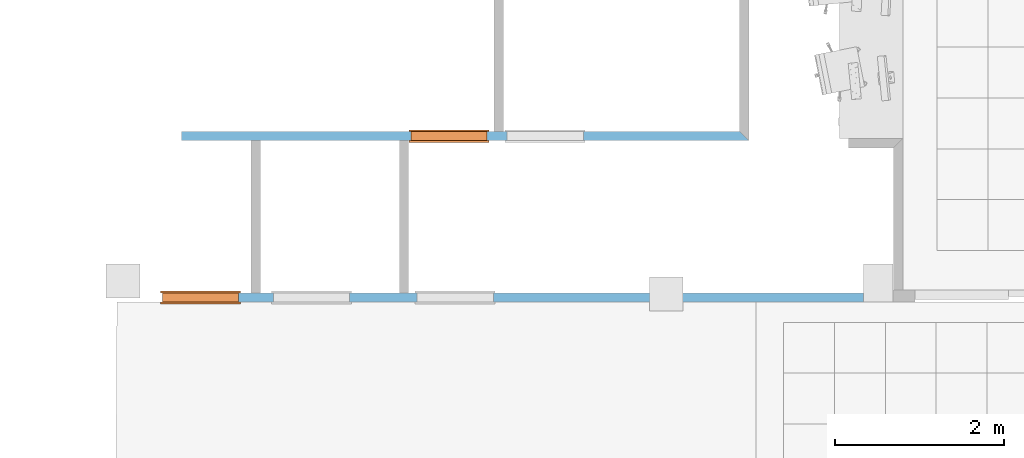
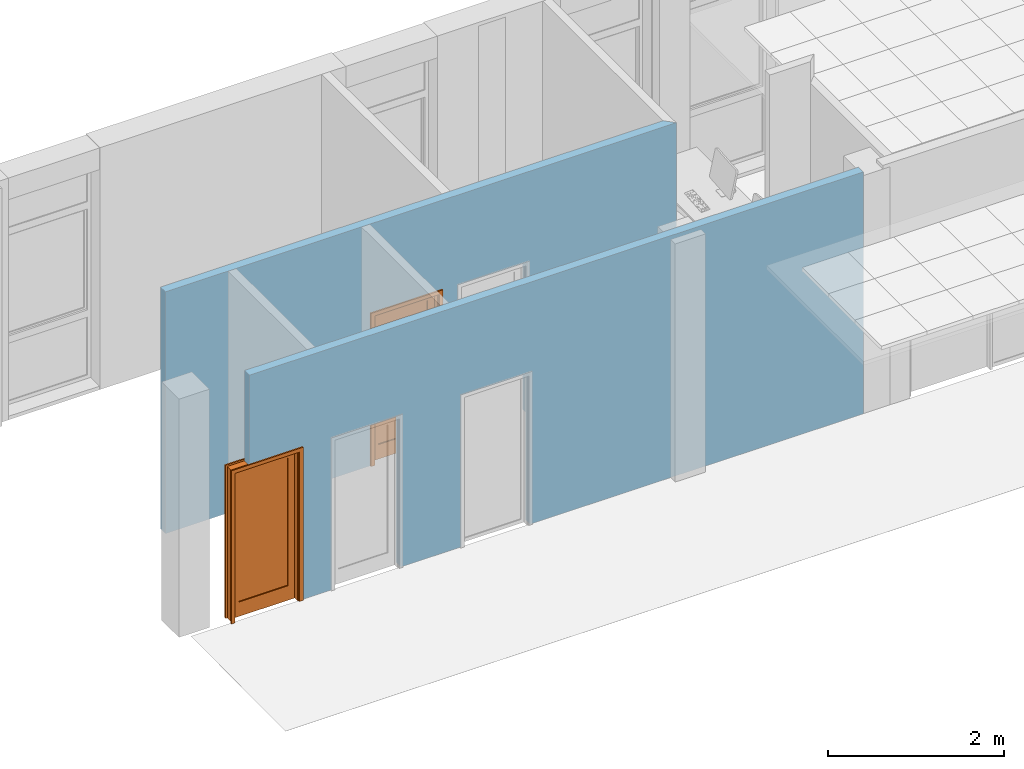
# One storey, part 49 of 68: 2 proxies, 5 openings, plus 2 elements that do not belong to this part.
"""IFC2X3 building model written with IfcOpenShell, lengths in millimetres."""

from ifc_helpers import new_model, entity, si_unit, converted_unit, derived_unit, money_unit, direction, frame, origin_with_axes, origin_2d_with_axis, place, context, subcontext, project, spatial, polyline, rectangle, outline, extrude, open_shell, faceted_brep, surface_model, material, layer, layer_set, layer_usage, type_object, element, fill, save


model = new_model("IFC2X3")

# Units and contexts
model_context = context("Model", 3, precision=0.01, world=origin_with_axes(), true_north=direction((0.0, 1.0)))
body_context = subcontext(model_context, "Body", "Model", "MODEL_VIEW")
ifc_project = project(units=[si_unit("LENGTHUNIT", "METRE", prefix="MILLI"), si_unit("AREAUNIT", "SQUARE_METRE"), si_unit("VOLUMEUNIT", "CUBIC_METRE"), converted_unit("PLANEANGLEUNIT", "DEGREE", entity("IfcPlaneAngleMeasure", 0.0174532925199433), si_unit("PLANEANGLEUNIT", "RADIAN"), dimensions=[0, 0, 0, 0, 0, 0, 0]), money_unit("USD"), converted_unit("TIMEUNIT", "Year", entity("IfcTimeMeasure", 31557600.0), si_unit("TIMEUNIT", "SECOND"), dimensions=[0, 0, 1, 0, 0, 0, 0]), si_unit("MASSUNIT", "GRAM", prefix="KILO"), si_unit("THERMODYNAMICTEMPERATUREUNIT", "DEGREE_CELSIUS"), si_unit("LUMINOUSINTENSITYUNIT", "LUMEN"), si_unit("ENERGYUNIT", "JOULE", prefix="MEGA"), derived_unit("THERMALCONDUCTANCEUNIT", [(si_unit("POWERUNIT", "WATT"), 1), (si_unit("LENGTHUNIT", "METRE"), -1), (si_unit("THERMODYNAMICTEMPERATUREUNIT", "KELVIN"), -1)]), derived_unit("SPECIFICHEATCAPACITYUNIT", [(si_unit("ENERGYUNIT", "JOULE"), 1), (si_unit("MASSUNIT", "GRAM", prefix="KILO"), -1), (si_unit("THERMODYNAMICTEMPERATUREUNIT", "KELVIN"), -1)]), derived_unit("MASSDENSITYUNIT", [(si_unit("MASSUNIT", "GRAM", prefix="KILO"), 1), (si_unit("VOLUMEUNIT", "CUBIC_METRE"), -1)])], contexts=[model_context])

# Site, building, storey
site_placement = place(None, origin_with_axes())
site = spatial("IfcSite", under=ifc_project, at=site_placement, Name="Sitio", CompositionType="ELEMENT")
building_placement = place(site_placement, origin_with_axes())
building = spatial("IfcBuilding", under=site, at=building_placement, Name="Construcción", CompositionType="ELEMENT")
storey_placement = place(building_placement, origin_with_axes())
storey = spatial("IfcBuildingStorey", under=building, at=storey_placement, Name="PLANTA 1ª", CompositionType="ELEMENT", Elevation=0.0)

# Wall, openings, proxy
ifc_material_1 = material(Name="ARQ_AM246_Arrebossat_De_Guix")
ifc_layer_1 = layer(ifc_material_1, 10.0, ventilated="UNKNOWN")
ifc_material_2 = material(Name="ARQ_CE217_Gero")
ifc_layer_2 = layer(ifc_material_2, 90.0, ventilated="UNKNOWN")
ifc_layer_3 = layer(ifc_material_1, 10.0, ventilated="UNKNOWN")
ifc_layer_set = layer_set([ifc_layer_1, ifc_layer_2, ifc_layer_3], Name="CR Enva Totxana")
ifc_layer_usage_1 = layer_usage(ifc_layer_set, "AXIS2", "POSITIVE", 0.0)
wall_type = type_object("IfcWallType", Name="CR Enva Totxana 110", PredefinedType="NOTDEFINED")
wall_1_placement = place(storey_placement, frame((-27275.14962012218, -15178.97582371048, 0.0), z_axis=(0.0, 0.0, 1.0), x_axis=(1.0, 0.0, 0.0)))
wall_1 = element("IfcWallStandardCase", 1, at=wall_1_placement, inside=storey, type_object=wall_type, material=ifc_layer_usage_1, Name="MS-201", context=body_context, shape_type="SweptSolid", body=[
    extrude(outline(polyline([(0.0, 0.0), (6693.718264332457, 0.0), (6583.718264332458, 109.9999999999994), (0.0, 109.9999999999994), (0.0, 0.0)])), origin_with_axes(), (0.0, 0.0, 1.0), 3350.0),
])
opening_1_placement = place(wall_1_placement, frame((3155.540615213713, 0.0, 0.0), z_axis=(0.0, 0.0, 1.0), x_axis=(1.0, 0.0, 0.0)))
opening_1 = element("IfcOpeningElement", 2, at=opening_1_placement, cuts=wall_1, Name="PF-07D", context=body_context, shape_type="SweptSolid", body=[
    extrude(rectangle(XDim=899.9999999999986, YDim=2100.0, at=origin_2d_with_axis()), frame((0.0, -109.9999999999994, 1050.0), z_axis=(0.0, 1.0, 0.0), x_axis=(1.0, 0.0, 0.0)), (0.0, 0.0, 1.0), 329.9999999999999),
    extrude(rectangle(XDim=944.0000000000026, YDim=2122.0, at=origin_2d_with_axis()), frame((0.0, 0.0, 1061.0), z_axis=(0.0, 1.0, 0.0), x_axis=(1.0, 0.0, 0.0)), (0.0, 0.0, -1.0), 110.0),
    extrude(rectangle(XDim=944.0000000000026, YDim=2122.0, at=origin_2d_with_axis()), frame((0.0, 109.9999999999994, 1061.0), z_axis=(0.0, -1.0, 0.0), x_axis=(1.0, 0.0, 0.0)), (0.0, 0.0, -1.0), 110.0),
])
opening_2_placement = place(wall_1_placement, frame((4291.29279168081, 0.0, 0.0), z_axis=(0.0, 0.0, 1.0), x_axis=(1.0, 0.0, 0.0)))
element("IfcOpeningElement", 3, at=opening_2_placement, cuts=wall_1, Name="PF-08D", context=body_context, shape_type="SweptSolid", body=[
    extrude(rectangle(XDim=899.9999999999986, YDim=2100.0, at=origin_2d_with_axis()), frame((0.0, -109.9999999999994, 1050.0), z_axis=(0.0, -1.0, 0.0), x_axis=(-1.0, 0.0, 0.0)), (0.0, 0.0, -1.0), 329.9999999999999),
    extrude(rectangle(XDim=944.0000000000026, YDim=2122.0, at=origin_2d_with_axis()), frame((0.0, 0.0, 1061.0), z_axis=(0.0, -1.0, 0.0), x_axis=(-1.0, 0.0, 0.0)), (0.0, 0.0, 1.0), 110.0),
    extrude(rectangle(XDim=944.0000000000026, YDim=2122.0, at=origin_2d_with_axis()), frame((0.0, 109.9999999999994, 1061.0), z_axis=(0.0, 1.0, 0.0), x_axis=(-1.0, 0.0, 0.0)), (0.0, 0.0, 1.0), 110.0),
])
building_element_proxy_type = type_object("IfcBuildingElementProxyType", Name="Puerta 27", PredefinedType="NOTDEFINED")
proxy_1_placement = place(opening_1_placement, frame((-449.9999999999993, 0.0, 0.0), z_axis=(0.0, 0.0, 1.0), x_axis=(1.0, 0.0, 0.0)))
proxy_1 = element("IfcBuildingElementProxy", 4, at=proxy_1_placement, inside=storey, type_object=building_element_proxy_type, Name="PF-07D", context=body_context, shape_type="SurfaceModel", body=[
    faceted_brep([(-22.00000000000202, -19.00000000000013, 0.0), (-22.00000000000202, 0.0, 0.0), (27.99999999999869, 0.0, 0.0), (27.99999999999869, -19.00000000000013, 0.0), (-22.00000000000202, -19.00000000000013, 2122.0), (-22.00000000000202, 0.0, 2122.0), (27.99999999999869, 0.0, 2072.0), (27.99999999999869, -19.00000000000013, 2072.0)], [[[0, 1, 2, 3]], [[4, 5, 1, 0]], [[1, 5, 6, 2]], [[3, 2, 6, 7]], [[0, 3, 7, 4]], [[7, 6, 5, 4]]]),
    faceted_brep([(922.0000000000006, -19.00000000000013, 2122.0), (922.0000000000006, 0.0, 2122.0), (871.9999999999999, 0.0, 2072.0), (871.9999999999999, -19.00000000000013, 2072.0), (922.0000000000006, -19.00000000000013, 0.0), (922.0000000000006, 0.0, 0.0), (871.9999999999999, 0.0, 0.0), (871.9999999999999, -19.00000000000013, 0.0)], [[[0, 1, 2, 3]], [[4, 5, 1, 0]], [[1, 5, 6, 2]], [[3, 2, 6, 7]], [[0, 3, 7, 4]], [[7, 6, 5, 4]]]),
    faceted_brep([(-22.00000000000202, -19.00000000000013, 2122.0), (-22.00000000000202, 0.0, 2122.0), (27.99999999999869, 0.0, 2072.0), (27.99999999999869, -19.00000000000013, 2072.0), (922.0000000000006, -19.00000000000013, 2122.0), (922.0000000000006, 0.0, 2122.0), (871.9999999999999, 0.0, 2072.0), (871.9999999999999, -19.00000000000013, 2072.0)], [[[0, 1, 2, 3]], [[4, 5, 1, 0]], [[1, 5, 6, 2]], [[3, 2, 6, 7]], [[0, 3, 7, 4]], [[7, 6, 5, 4]]]),
    faceted_brep([(-22.00000000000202, 128.9999999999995, 0.0), (27.99999999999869, 128.9999999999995, 0.0), (27.99999999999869, 109.9999999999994, 0.0), (-22.00000000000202, 109.9999999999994, 0.0), (-22.00000000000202, 128.9999999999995, 2122.0), (27.99999999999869, 128.9999999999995, 2072.0), (27.99999999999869, 109.9999999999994, 2072.0), (-22.00000000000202, 109.9999999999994, 2122.0)], [[[0, 1, 2, 3]], [[0, 4, 5, 1]], [[1, 5, 6, 2]], [[3, 2, 6, 7]], [[4, 0, 3, 7]], [[5, 4, 7, 6]]]),
    faceted_brep([(922.0000000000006, 128.9999999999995, 2122.0), (871.9999999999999, 128.9999999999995, 2072.0), (871.9999999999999, 109.9999999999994, 2072.0), (922.0000000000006, 109.9999999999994, 2122.0), (922.0000000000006, 128.9999999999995, 0.0), (871.9999999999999, 128.9999999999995, 0.0), (871.9999999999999, 109.9999999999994, 0.0), (922.0000000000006, 109.9999999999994, 0.0)], [[[0, 1, 2, 3]], [[0, 4, 5, 1]], [[1, 5, 6, 2]], [[3, 2, 6, 7]], [[4, 0, 3, 7]], [[5, 4, 7, 6]]]),
    faceted_brep([(-22.00000000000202, 128.9999999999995, 2122.0), (27.99999999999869, 128.9999999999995, 2072.0), (27.99999999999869, 109.9999999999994, 2072.0), (-22.00000000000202, 109.9999999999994, 2122.0), (922.0000000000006, 128.9999999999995, 2122.0), (871.9999999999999, 128.9999999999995, 2072.0), (871.9999999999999, 109.9999999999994, 2072.0), (922.0000000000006, 109.9999999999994, 2122.0)], [[[0, 1, 2, 3]], [[0, 4, 5, 1]], [[1, 5, 6, 2]], [[3, 2, 6, 7]], [[4, 0, 3, 7]], [[5, 4, 7, 6]]]),
    faceted_brep([(39.99999999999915, 70.00000000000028, 0.0), (39.99999999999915, 70.00000000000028, 2060.0), (39.99999999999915, 0.0, 2060.0), (39.99999999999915, 0.0, 0.0), (27.99999999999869, 70.00000000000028, 2060.0), (27.99999999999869, 70.00000000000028, 0.0), (27.99999999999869, 109.9999999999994, 2060.0), (0.0, 109.9999999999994, 2060.0), (0.0, 0.0, 2060.0), (0.0, 0.0, 0.0), (0.0, 109.9999999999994, 0.0), (27.99999999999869, 109.9999999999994, 0.0)], [[[0, 1, 2, 3]], [[4, 1, 0, 5]], [[4, 6, 7, 8, 2, 1]], [[3, 2, 8, 9]], [[5, 0, 3, 9, 10, 11]], [[6, 4, 5, 11]], [[6, 11, 10, 7]], [[10, 9, 8, 7]]]),
    faceted_brep([(871.9999999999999, 70.00000000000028, 2060.0), (859.9999999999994, 70.00000000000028, 2060.0), (859.9999999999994, 0.0, 2060.0), (899.9999999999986, 0.0, 2060.0), (899.9999999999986, 109.9999999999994, 2060.0), (871.9999999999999, 109.9999999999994, 2060.0), (871.9999999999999, 70.00000000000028, 0.0), (859.9999999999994, 70.00000000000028, 0.0), (859.9999999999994, 0.0, 0.0), (899.9999999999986, 0.0, 0.0), (899.9999999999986, 109.9999999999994, 0.0), (871.9999999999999, 109.9999999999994, 0.0)], [[[0, 1, 2, 3, 4, 5]], [[1, 0, 6, 7]], [[1, 7, 8, 2]], [[3, 2, 8, 9]], [[4, 3, 9, 10]], [[11, 5, 4, 10]], [[0, 5, 11, 6]], [[6, 11, 10, 9, 8, 7]]]),
    faceted_brep([(27.99999999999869, 109.9999999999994, 2072.0), (27.99999999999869, 109.9999999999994, 2060.0), (0.0, 109.9999999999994, 2060.0), (0.0, 109.9999999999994, 2100.0), (899.9999999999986, 109.9999999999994, 2100.0), (899.9999999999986, 109.9999999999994, 2060.0), (871.9999999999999, 109.9999999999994, 2060.0), (871.9999999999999, 109.9999999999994, 2072.0), (27.99999999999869, 70.00000000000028, 2072.0), (27.99999999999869, 70.00000000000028, 2060.0), (39.99999999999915, 70.00000000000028, 2060.0), (39.99999999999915, 0.0, 2060.0), (0.0, 0.0, 2060.0), (0.0, 0.0, 2100.0), (899.9999999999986, 0.0, 2100.0), (899.9999999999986, 0.0, 2060.0), (871.9999999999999, 70.00000000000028, 2060.0), (859.9999999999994, 0.0, 2060.0), (859.9999999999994, 70.00000000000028, 2060.0), (871.9999999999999, 70.00000000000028, 2072.0)], [[[0, 1, 2, 3, 4, 5, 6, 7]], [[1, 0, 8, 9]], [[9, 10, 11, 12, 2, 1]], [[2, 12, 13, 3]], [[3, 13, 14, 4]], [[4, 14, 15, 5]], [[16, 6, 5, 15, 17, 18]], [[7, 6, 16, 19]], [[0, 7, 19, 8]], [[16, 18, 10, 9, 8, 19]], [[10, 18, 17, 11]], [[17, 15, 14, 13, 12, 11]]]),
    faceted_brep([(871.9999999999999, 109.9999999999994, 200.0), (871.9999999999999, 70.00000000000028, 200.0), (771.9999999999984, 70.00000000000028, 200.0), (771.9999999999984, 109.9999999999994, 200.0), (871.9999999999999, 109.9999999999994, 1972.0), (871.9999999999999, 70.00000000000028, 1972.0), (771.9999999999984, 70.00000000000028, 1972.0), (771.9999999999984, 109.9999999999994, 1972.0)], [[[0, 1, 2, 3]], [[4, 5, 1, 0]], [[1, 5, 6, 2]], [[3, 2, 6, 7]], [[0, 3, 7, 4]], [[7, 6, 5, 4]]]),
    faceted_brep([(27.99999999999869, 109.9999999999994, 200.0), (27.99999999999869, 70.00000000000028, 200.0), (27.99999999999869, 70.00000000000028, 1972.0), (27.99999999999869, 109.9999999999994, 1972.0), (128.0000000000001, 109.9999999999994, 200.0), (128.0000000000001, 70.00000000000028, 200.0), (128.0000000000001, 70.00000000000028, 1972.0), (128.0000000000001, 109.9999999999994, 1972.0)], [[[0, 1, 2, 3]], [[4, 5, 1, 0]], [[1, 5, 6, 2]], [[3, 2, 6, 7]], [[0, 3, 7, 4]], [[7, 6, 5, 4]]]),
    faceted_brep([(871.9999999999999, 109.9999999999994, 0.0), (871.9999999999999, 70.00000000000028, 0.0), (27.99999999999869, 70.00000000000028, 0.0), (27.99999999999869, 109.9999999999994, 0.0), (871.9999999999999, 109.9999999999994, 200.0), (871.9999999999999, 70.00000000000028, 200.0), (771.9999999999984, 70.00000000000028, 200.0), (128.0000000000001, 70.00000000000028, 200.0), (27.99999999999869, 70.00000000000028, 200.0), (27.99999999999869, 109.9999999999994, 200.0), (128.0000000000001, 109.9999999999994, 200.0), (771.9999999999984, 109.9999999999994, 200.0)], [[[0, 1, 2, 3]], [[4, 5, 1, 0]], [[1, 5, 6, 7, 8, 2]], [[3, 2, 8, 9]], [[0, 3, 9, 10, 11, 4]], [[11, 6, 5, 4]], [[10, 7, 6, 11]], [[9, 8, 7, 10]]]),
    faceted_brep([(871.9999999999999, 109.9999999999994, 2072.0), (871.9999999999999, 70.00000000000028, 2072.0), (871.9999999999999, 70.00000000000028, 1972.0), (871.9999999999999, 109.9999999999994, 1972.0), (27.99999999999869, 109.9999999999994, 2072.0), (27.99999999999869, 70.00000000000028, 2072.0), (27.99999999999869, 70.00000000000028, 1972.0), (128.0000000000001, 70.00000000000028, 1972.0), (771.9999999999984, 70.00000000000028, 1972.0), (771.9999999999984, 109.9999999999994, 1972.0), (128.0000000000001, 109.9999999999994, 1972.0), (27.99999999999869, 109.9999999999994, 1972.0)], [[[0, 1, 2, 3]], [[4, 5, 1, 0]], [[1, 5, 6, 7, 8, 2]], [[3, 2, 8, 9]], [[0, 3, 9, 10, 11, 4]], [[11, 6, 5, 4]], [[10, 7, 6, 11]], [[9, 8, 7, 10]]]),
    surface_model("IfcShellBasedSurfaceModel", [(771.9999999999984, 96.00000000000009, 200.0), (128.0000000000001, 96.00000000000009, 200.0), (128.0000000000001, 96.00000000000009, 1972.0), (771.9999999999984, 96.00000000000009, 1972.0)], [open_shell([[[0, 1, 2, 3]]])]),
    surface_model("IfcShellBasedSurfaceModel", [(771.9999999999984, 83.99999999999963, 200.0), (771.9999999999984, 83.99999999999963, 1972.0), (128.0000000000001, 83.99999999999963, 1972.0), (128.0000000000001, 83.99999999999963, 200.0)], [open_shell([[[0, 1, 2, 3]]])]),
])
fill(opening_1, proxy_1)

ifc_layer_usage_2 = layer_usage(ifc_layer_set, "AXIS2", "POSITIVE", 0.0)
wall_2_placement = place(storey_placement, frame((-27275.14962012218, -17083.97582371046, 0.0), z_axis=(0.0, 0.0, 1.0), x_axis=(1.0, 0.0, 0.0)))
wall_2 = element("IfcWallStandardCase", 5, at=wall_2_placement, inside=storey, type_object=wall_type, material=ifc_layer_usage_2, Name="MS-201", context=body_context, shape_type="SweptSolid", body=[
    extrude(outline(polyline([(0.0, 0.0), (8046.540615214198, 0.0), (8046.540615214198, 109.9999999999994), (0.0, 109.9999999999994), (0.0, 0.0)])), origin_with_axes(), (0.0, 0.0, 1.0), 3350.0),
])
opening_3_placement = place(wall_2_placement, frame((1533.04558839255, 0.0, 0.0), z_axis=(0.0, 0.0, 1.0), x_axis=(1.0, 0.0, 0.0)))
element("IfcOpeningElement", 6, at=opening_3_placement, cuts=wall_2, Name="PF-04D", context=body_context, shape_type="SweptSolid", body=[
    extrude(rectangle(XDim=899.9999999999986, YDim=2100.0, at=origin_2d_with_axis()), frame((0.0, -109.9999999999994, 1050.0), z_axis=(0.0, -1.0, 0.0), x_axis=(-1.0, 0.0, 0.0)), (0.0, 0.0, -1.0), 329.9999999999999),
    extrude(rectangle(XDim=944.0000000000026, YDim=2122.0, at=origin_2d_with_axis()), frame((0.0, 0.0, 1061.0), z_axis=(0.0, -1.0, 0.0), x_axis=(-1.0, 0.0, 0.0)), (0.0, 0.0, 1.0), 110.0),
    extrude(rectangle(XDim=944.0000000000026, YDim=2122.0, at=origin_2d_with_axis()), frame((0.0, 109.9999999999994, 1061.0), z_axis=(0.0, 1.0, 0.0), x_axis=(-1.0, 0.0, 0.0)), (0.0, 0.0, 1.0), 110.0),
])
opening_4_placement = place(wall_2_placement, frame((224.040615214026, 0.0, 0.0), z_axis=(0.0, 0.0, 1.0), x_axis=(1.0, 0.0, 0.0)))
opening_4 = element("IfcOpeningElement", 7, at=opening_4_placement, cuts=wall_2, Name="PF-06D", context=body_context, shape_type="SweptSolid", body=[
    extrude(rectangle(XDim=899.9999999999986, YDim=2100.0, at=origin_2d_with_axis()), frame((0.0, -109.9999999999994, 1050.0), z_axis=(0.0, 1.0, 0.0), x_axis=(1.0, 0.0, 0.0)), (0.0, 0.0, 1.0), 329.9999999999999),
    extrude(rectangle(XDim=944.0000000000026, YDim=2122.0, at=origin_2d_with_axis()), frame((0.0, 0.0, 1061.0), z_axis=(0.0, 1.0, 0.0), x_axis=(1.0, 0.0, 0.0)), (0.0, 0.0, -1.0), 110.0),
    extrude(rectangle(XDim=944.0000000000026, YDim=2122.0, at=origin_2d_with_axis()), frame((0.0, 109.9999999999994, 1061.0), z_axis=(0.0, -1.0, 0.0), x_axis=(1.0, 0.0, 0.0)), (0.0, 0.0, -1.0), 110.0),
])
opening_5_placement = place(wall_2_placement, frame((3228.740581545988, 0.0, 0.0), z_axis=(0.0, 0.0, 1.0), x_axis=(1.0, 0.0, 0.0)))
element("IfcOpeningElement", 8, at=opening_5_placement, cuts=wall_2, Name="PF-05D", context=body_context, shape_type="SweptSolid", body=[
    extrude(rectangle(XDim=899.9999999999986, YDim=2100.0, at=origin_2d_with_axis()), frame((0.0, -109.9999999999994, 1050.0), z_axis=(0.0, -1.0, 0.0), x_axis=(-1.0, 0.0, 0.0)), (0.0, 0.0, -1.0), 329.9999999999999),
    extrude(rectangle(XDim=944.0000000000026, YDim=2122.0, at=origin_2d_with_axis()), frame((0.0, 0.0, 1061.0), z_axis=(0.0, -1.0, 0.0), x_axis=(-1.0, 0.0, 0.0)), (0.0, 0.0, 1.0), 110.0),
    extrude(rectangle(XDim=944.0000000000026, YDim=2122.0, at=origin_2d_with_axis()), frame((0.0, 109.9999999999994, 1061.0), z_axis=(0.0, 1.0, 0.0), x_axis=(-1.0, 0.0, 0.0)), (0.0, 0.0, 1.0), 110.0),
])
proxy_2_placement = place(opening_4_placement, frame((-449.9999999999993, 0.0, 0.0), z_axis=(0.0, 0.0, 1.0), x_axis=(1.0, 0.0, 0.0)))
proxy_2 = element("IfcBuildingElementProxy", 9, at=proxy_2_placement, inside=storey, type_object=building_element_proxy_type, Name="PF-06D", context=body_context, shape_type="SurfaceModel", body=[
    faceted_brep([(-22.00000000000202, -19.0000000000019, 0.0), (-22.00000000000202, 0.0, 0.0), (27.99999999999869, 0.0, 0.0), (27.99999999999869, -19.0000000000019, 0.0), (-22.00000000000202, -19.0000000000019, 2122.0), (-22.00000000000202, 0.0, 2122.0), (27.99999999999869, 0.0, 2072.0), (27.99999999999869, -19.0000000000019, 2072.0)], [[[0, 1, 2, 3]], [[4, 5, 1, 0]], [[1, 5, 6, 2]], [[3, 2, 6, 7]], [[0, 3, 7, 4]], [[7, 6, 5, 4]]]),
    faceted_brep([(922.0000000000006, -19.0000000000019, 2122.0), (922.0000000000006, 0.0, 2122.0), (871.9999999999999, 0.0, 2072.0), (871.9999999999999, -19.0000000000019, 2072.0), (922.0000000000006, -19.0000000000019, 0.0), (922.0000000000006, 0.0, 0.0), (871.9999999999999, 0.0, 0.0), (871.9999999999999, -19.0000000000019, 0.0)], [[[0, 1, 2, 3]], [[4, 5, 1, 0]], [[1, 5, 6, 2]], [[3, 2, 6, 7]], [[0, 3, 7, 4]], [[7, 6, 5, 4]]]),
    faceted_brep([(-22.00000000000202, -19.0000000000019, 2122.0), (-22.00000000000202, 0.0, 2122.0), (27.99999999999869, 0.0, 2072.0), (27.99999999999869, -19.0000000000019, 2072.0), (922.0000000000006, -19.0000000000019, 2122.0), (922.0000000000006, 0.0, 2122.0), (871.9999999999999, 0.0, 2072.0), (871.9999999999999, -19.0000000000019, 2072.0)], [[[0, 1, 2, 3]], [[4, 5, 1, 0]], [[1, 5, 6, 2]], [[3, 2, 6, 7]], [[0, 3, 7, 4]], [[7, 6, 5, 4]]]),
    faceted_brep([(-22.00000000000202, 128.9999999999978, 0.0), (27.99999999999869, 128.9999999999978, 0.0), (27.99999999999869, 109.9999999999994, 0.0), (-22.00000000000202, 109.9999999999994, 0.0), (-22.00000000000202, 128.9999999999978, 2122.0), (27.99999999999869, 128.9999999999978, 2072.0), (27.99999999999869, 109.9999999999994, 2072.0), (-22.00000000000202, 109.9999999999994, 2122.0)], [[[0, 1, 2, 3]], [[0, 4, 5, 1]], [[1, 5, 6, 2]], [[3, 2, 6, 7]], [[4, 0, 3, 7]], [[5, 4, 7, 6]]]),
    faceted_brep([(922.0000000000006, 128.9999999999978, 2122.0), (871.9999999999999, 128.9999999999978, 2072.0), (871.9999999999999, 109.9999999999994, 2072.0), (922.0000000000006, 109.9999999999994, 2122.0), (922.0000000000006, 128.9999999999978, 0.0), (871.9999999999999, 128.9999999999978, 0.0), (871.9999999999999, 109.9999999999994, 0.0), (922.0000000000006, 109.9999999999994, 0.0)], [[[0, 1, 2, 3]], [[0, 4, 5, 1]], [[1, 5, 6, 2]], [[3, 2, 6, 7]], [[4, 0, 3, 7]], [[5, 4, 7, 6]]]),
    faceted_brep([(-22.00000000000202, 128.9999999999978, 2122.0), (27.99999999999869, 128.9999999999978, 2072.0), (27.99999999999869, 109.9999999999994, 2072.0), (-22.00000000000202, 109.9999999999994, 2122.0), (922.0000000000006, 128.9999999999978, 2122.0), (871.9999999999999, 128.9999999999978, 2072.0), (871.9999999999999, 109.9999999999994, 2072.0), (922.0000000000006, 109.9999999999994, 2122.0)], [[[0, 1, 2, 3]], [[0, 4, 5, 1]], [[1, 5, 6, 2]], [[3, 2, 6, 7]], [[4, 0, 3, 7]], [[5, 4, 7, 6]]]),
    faceted_brep([(39.99999999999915, 70.00000000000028, 0.0), (39.99999999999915, 70.00000000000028, 2060.0), (39.99999999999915, 0.0, 2060.0), (39.99999999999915, 0.0, 0.0), (27.99999999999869, 70.00000000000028, 2060.0), (27.99999999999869, 70.00000000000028, 0.0), (27.99999999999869, 109.9999999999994, 2060.0), (0.0, 109.9999999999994, 2060.0), (0.0, 0.0, 2060.0), (0.0, 0.0, 0.0), (0.0, 109.9999999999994, 0.0), (27.99999999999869, 109.9999999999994, 0.0)], [[[0, 1, 2, 3]], [[4, 1, 0, 5]], [[4, 6, 7, 8, 2, 1]], [[3, 2, 8, 9]], [[5, 0, 3, 9, 10, 11]], [[6, 4, 5, 11]], [[6, 11, 10, 7]], [[10, 9, 8, 7]]]),
    faceted_brep([(871.9999999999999, 70.00000000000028, 2060.0), (859.9999999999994, 70.00000000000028, 2060.0), (859.9999999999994, 0.0, 2060.0), (899.9999999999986, 0.0, 2060.0), (899.9999999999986, 109.9999999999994, 2060.0), (871.9999999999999, 109.9999999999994, 2060.0), (871.9999999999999, 70.00000000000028, 0.0), (859.9999999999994, 70.00000000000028, 0.0), (859.9999999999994, 0.0, 0.0), (899.9999999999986, 0.0, 0.0), (899.9999999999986, 109.9999999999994, 0.0), (871.9999999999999, 109.9999999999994, 0.0)], [[[0, 1, 2, 3, 4, 5]], [[1, 0, 6, 7]], [[1, 7, 8, 2]], [[3, 2, 8, 9]], [[4, 3, 9, 10]], [[11, 5, 4, 10]], [[0, 5, 11, 6]], [[6, 11, 10, 9, 8, 7]]]),
    faceted_brep([(27.99999999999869, 109.9999999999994, 2072.0), (27.99999999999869, 109.9999999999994, 2060.0), (0.0, 109.9999999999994, 2060.0), (0.0, 109.9999999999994, 2100.0), (899.9999999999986, 109.9999999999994, 2100.0), (899.9999999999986, 109.9999999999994, 2060.0), (871.9999999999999, 109.9999999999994, 2060.0), (871.9999999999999, 109.9999999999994, 2072.0), (27.99999999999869, 70.00000000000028, 2072.0), (27.99999999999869, 70.00000000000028, 2060.0), (39.99999999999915, 70.00000000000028, 2060.0), (39.99999999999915, 0.0, 2060.0), (0.0, 0.0, 2060.0), (0.0, 0.0, 2100.0), (899.9999999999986, 0.0, 2100.0), (899.9999999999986, 0.0, 2060.0), (871.9999999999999, 70.00000000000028, 2060.0), (859.9999999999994, 0.0, 2060.0), (859.9999999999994, 70.00000000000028, 2060.0), (871.9999999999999, 70.00000000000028, 2072.0)], [[[0, 1, 2, 3, 4, 5, 6, 7]], [[1, 0, 8, 9]], [[9, 10, 11, 12, 2, 1]], [[2, 12, 13, 3]], [[3, 13, 14, 4]], [[4, 14, 15, 5]], [[16, 6, 5, 15, 17, 18]], [[7, 6, 16, 19]], [[0, 7, 19, 8]], [[16, 18, 10, 9, 8, 19]], [[10, 18, 17, 11]], [[17, 15, 14, 13, 12, 11]]]),
    faceted_brep([(871.9999999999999, 109.9999999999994, 200.0), (871.9999999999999, 70.00000000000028, 200.0), (771.9999999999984, 70.00000000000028, 200.0), (771.9999999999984, 109.9999999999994, 200.0), (871.9999999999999, 109.9999999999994, 1972.0), (871.9999999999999, 70.00000000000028, 1972.0), (771.9999999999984, 70.00000000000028, 1972.0), (771.9999999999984, 109.9999999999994, 1972.0)], [[[0, 1, 2, 3]], [[4, 5, 1, 0]], [[1, 5, 6, 2]], [[3, 2, 6, 7]], [[0, 3, 7, 4]], [[7, 6, 5, 4]]]),
    faceted_brep([(27.99999999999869, 109.9999999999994, 200.0), (27.99999999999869, 70.00000000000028, 200.0), (27.99999999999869, 70.00000000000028, 1972.0), (27.99999999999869, 109.9999999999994, 1972.0), (128.0000000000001, 109.9999999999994, 200.0), (128.0000000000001, 70.00000000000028, 200.0), (128.0000000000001, 70.00000000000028, 1972.0), (128.0000000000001, 109.9999999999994, 1972.0)], [[[0, 1, 2, 3]], [[4, 5, 1, 0]], [[1, 5, 6, 2]], [[3, 2, 6, 7]], [[0, 3, 7, 4]], [[7, 6, 5, 4]]]),
    faceted_brep([(871.9999999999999, 109.9999999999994, 0.0), (871.9999999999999, 70.00000000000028, 0.0), (27.99999999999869, 70.00000000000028, 0.0), (27.99999999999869, 109.9999999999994, 0.0), (871.9999999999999, 109.9999999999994, 200.0), (871.9999999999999, 70.00000000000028, 200.0), (771.9999999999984, 70.00000000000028, 200.0), (128.0000000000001, 70.00000000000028, 200.0), (27.99999999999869, 70.00000000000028, 200.0), (27.99999999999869, 109.9999999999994, 200.0), (128.0000000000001, 109.9999999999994, 200.0), (771.9999999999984, 109.9999999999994, 200.0)], [[[0, 1, 2, 3]], [[4, 5, 1, 0]], [[1, 5, 6, 7, 8, 2]], [[3, 2, 8, 9]], [[0, 3, 9, 10, 11, 4]], [[11, 6, 5, 4]], [[10, 7, 6, 11]], [[9, 8, 7, 10]]]),
    faceted_brep([(871.9999999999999, 109.9999999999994, 2072.0), (871.9999999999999, 70.00000000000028, 2072.0), (871.9999999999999, 70.00000000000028, 1972.0), (871.9999999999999, 109.9999999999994, 1972.0), (27.99999999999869, 109.9999999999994, 2072.0), (27.99999999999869, 70.00000000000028, 2072.0), (27.99999999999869, 70.00000000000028, 1972.0), (128.0000000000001, 70.00000000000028, 1972.0), (771.9999999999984, 70.00000000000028, 1972.0), (771.9999999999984, 109.9999999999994, 1972.0), (128.0000000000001, 109.9999999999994, 1972.0), (27.99999999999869, 109.9999999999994, 1972.0)], [[[0, 1, 2, 3]], [[4, 5, 1, 0]], [[1, 5, 6, 7, 8, 2]], [[3, 2, 8, 9]], [[0, 3, 9, 10, 11, 4]], [[11, 6, 5, 4]], [[10, 7, 6, 11]], [[9, 8, 7, 10]]]),
    surface_model("IfcShellBasedSurfaceModel", [(771.9999999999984, 96.00000000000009, 200.0), (128.0000000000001, 96.00000000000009, 200.0), (128.0000000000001, 96.00000000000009, 1972.0), (771.9999999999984, 96.00000000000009, 1972.0)], [open_shell([[[0, 1, 2, 3]]])]),
    surface_model("IfcShellBasedSurfaceModel", [(771.9999999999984, 83.99999999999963, 200.0), (771.9999999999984, 83.99999999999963, 1972.0), (128.0000000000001, 83.99999999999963, 1972.0), (128.0000000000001, 83.99999999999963, 200.0)], [open_shell([[[0, 1, 2, 3]]])]),
])
fill(opening_4, proxy_2)

save(model, "model.ifc")
